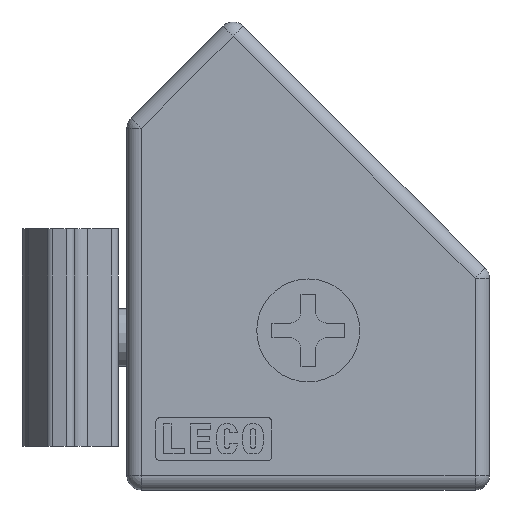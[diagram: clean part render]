
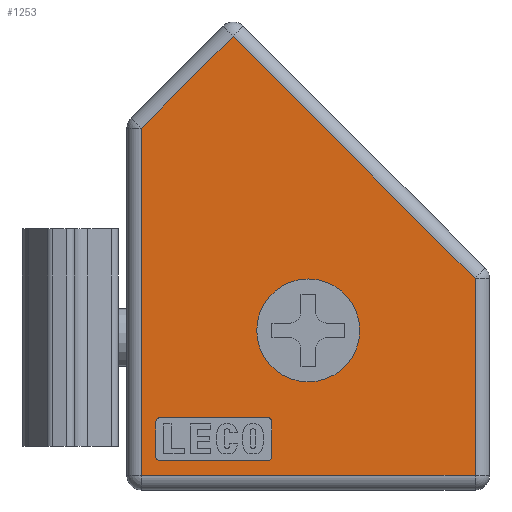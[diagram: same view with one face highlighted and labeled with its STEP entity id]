
A CAD part, left-side view. The second image highlights one B-rep face of the part: STEP entity #1253.
In plain terms, the highlighted planar face has unit normal (-1, 0, 0) as drawn and (0, 0, -1) by its records, which use the part's own axes.
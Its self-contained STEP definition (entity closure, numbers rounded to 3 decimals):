
#1253=ADVANCED_FACE('',(#2480,#2481,#2482),#2483,.F.);
#2480=FACE_BOUND('',#3687,.T.);
#2481=FACE_BOUND('',#3688,.T.);
#2482=FACE_OUTER_BOUND('',#3689,.T.);
#2483=PLANE('',#3690);
#3687=EDGE_LOOP('',(#7114,#7115,#7116,#7117,#7118,#7119,#7120,#7121));
#3688=EDGE_LOOP('',(#7122));
#3689=EDGE_LOOP('',(#7123,#7124,#7125,#7126,#7127));
#3690=AXIS2_PLACEMENT_3D('',#7128,#7129,#7130);
#7114=ORIENTED_EDGE('',*,*,#8594,.F.);
#7115=ORIENTED_EDGE('',*,*,#8531,.F.);
#7116=ORIENTED_EDGE('',*,*,#8037,.F.);
#7117=ORIENTED_EDGE('',*,*,#7455,.F.);
#7118=ORIENTED_EDGE('',*,*,#7833,.F.);
#7119=ORIENTED_EDGE('',*,*,#8033,.F.);
#7120=ORIENTED_EDGE('',*,*,#8260,.F.);
#7121=ORIENTED_EDGE('',*,*,#8268,.F.);
#7122=ORIENTED_EDGE('',*,*,#7300,.T.);
#7123=ORIENTED_EDGE('',*,*,#8572,.T.);
#7124=ORIENTED_EDGE('',*,*,#7377,.T.);
#7125=ORIENTED_EDGE('',*,*,#7775,.T.);
#7126=ORIENTED_EDGE('',*,*,#8184,.F.);
#7127=ORIENTED_EDGE('',*,*,#7837,.F.);
#7128=CARTESIAN_POINT('',(1326.119,-377.004,19.334));
#7129=DIRECTION('',(0.0,0.0,1.0));
#7130=DIRECTION('',(1.0,0.0,0.0));
#7300=EDGE_CURVE('',#8700,#8700,#8701,.T.);
#7377=EDGE_CURVE('',#8841,#8839,#8842,.F.);
#7455=EDGE_CURVE('',#8977,#8978,#8979,.T.);
#7775=EDGE_CURVE('',#8839,#9524,#9526,.F.);
#7833=EDGE_CURVE('',#9612,#8977,#9613,.T.);
#7837=EDGE_CURVE('',#9618,#9619,#9620,.T.);
#8033=EDGE_CURVE('',#9904,#9612,#9905,.T.);
#8037=EDGE_CURVE('',#8978,#9910,#9911,.T.);
#8184=EDGE_CURVE('',#9619,#9524,#10124,.T.);
#8260=EDGE_CURVE('',#10230,#9904,#10231,.T.);
#8268=EDGE_CURVE('',#10242,#10230,#10243,.T.);
#8531=EDGE_CURVE('',#9910,#10568,#10569,.T.);
#8572=EDGE_CURVE('',#9618,#8841,#10614,.T.);
#8594=EDGE_CURVE('',#10568,#10242,#10638,.T.);
#8700=VERTEX_POINT('',#10757);
#8701=CIRCLE('',#10758,3.55);
#8839=VERTEX_POINT('',#10948);
#8841=VERTEX_POINT('',#10950);
#8842=LINE('',#10951,#10952);
#8977=VERTEX_POINT('',#11139);
#8978=VERTEX_POINT('',#11140);
#8979=CIRCLE('',#11141,0.3);
#9524=VERTEX_POINT('',#11936);
#9526=LINE('',#11938,#11939);
#9612=VERTEX_POINT('',#12066);
#9613=LINE('',#12067,#12068);
#9618=VERTEX_POINT('',#12075);
#9619=VERTEX_POINT('',#12076);
#9620=LINE('',#12077,#12078);
#9904=VERTEX_POINT('',#12472);
#9905=CIRCLE('',#12473,0.3);
#9910=VERTEX_POINT('',#12479);
#9911=LINE('',#12480,#12481);
#10124=LINE('',#12785,#12786);
#10230=VERTEX_POINT('',#12934);
#10231=LINE('',#12935,#12936);
#10242=VERTEX_POINT('',#12952);
#10243=CIRCLE('',#12953,0.3);
#10568=VERTEX_POINT('',#13402);
#10569=CIRCLE('',#13403,0.3);
#10614=LINE('',#13458,#13459);
#10638=LINE('',#13486,#13487);
#10757=CARTESIAN_POINT('',(1342.169,-366.004,19.334));
#10758=AXIS2_PLACEMENT_3D('',#13590,#13591,#13592);
#10948=CARTESIAN_POINT('',(1343.796,-345.741,19.334));
#10950=CARTESIAN_POINT('',(1327.119,-362.419,19.334));
#10951=CARTESIAN_POINT('',(1319.326,-370.211,19.334));
#10952=VECTOR('',#13678,1.0);
#11139=CARTESIAN_POINT('',(1341.119,-372.304,19.334));
#11140=CARTESIAN_POINT('',(1341.419,-372.004,19.334));
#11141=AXIS2_PLACEMENT_3D('',#13780,#13781,#13782);
#11936=CARTESIAN_POINT('',(1350.119,-352.063,19.334));
#11938=CARTESIAN_POINT('',(1350.589,-352.534,19.334));
#11939=VECTOR('',#14173,1.0);
#12066=CARTESIAN_POINT('',(1341.119,-374.704,19.334));
#12067=CARTESIAN_POINT('',(1341.119,-374.704,19.334));
#12068=VECTOR('',#14243,1.0);
#12075=CARTESIAN_POINT('',(1327.119,-376.004,19.334));
#12076=CARTESIAN_POINT('',(1350.119,-376.004,19.334));
#12077=CARTESIAN_POINT('',(1326.119,-376.004,19.334));
#12078=VECTOR('',#14246,1.0);
#12472=CARTESIAN_POINT('',(1341.419,-375.004,19.334));
#12473=AXIS2_PLACEMENT_3D('',#14470,#14471,#14472);
#12479=CARTESIAN_POINT('',(1348.819,-372.004,19.334));
#12480=CARTESIAN_POINT('',(1341.419,-372.004,19.334));
#12481=VECTOR('',#14477,1.0);
#12785=CARTESIAN_POINT('',(1350.119,-377.004,19.334));
#12786=VECTOR('',#14636,1.0);
#12934=CARTESIAN_POINT('',(1348.819,-375.004,19.334));
#12935=CARTESIAN_POINT('',(1348.819,-375.004,19.334));
#12936=VECTOR('',#14721,1.0);
#12952=CARTESIAN_POINT('',(1349.119,-374.704,19.334));
#12953=AXIS2_PLACEMENT_3D('',#14727,#14728,#14729);
#13402=CARTESIAN_POINT('',(1349.119,-372.304,19.334));
#13403=AXIS2_PLACEMENT_3D('',#15035,#15036,#15037);
#13458=CARTESIAN_POINT('',(1327.119,-377.004,19.334));
#13459=VECTOR('',#15084,1.0);
#13486=CARTESIAN_POINT('',(1349.119,-372.304,19.334));
#13487=VECTOR('',#15097,1.0);
#13590=CARTESIAN_POINT('',(1338.619,-366.004,19.334));
#13591=DIRECTION('',(0.0,0.0,1.0));
#13592=DIRECTION('',(1.0,0.0,0.0));
#13678=DIRECTION('',(-0.707,-0.707,0.0));
#13780=CARTESIAN_POINT('',(1341.419,-372.304,19.334));
#13781=DIRECTION('',(0.0,0.0,-1.0));
#13782=DIRECTION('',(-1.0,0.0,0.0));
#14173=DIRECTION('',(-0.707,0.707,0.0));
#14243=DIRECTION('',(0.,1.0,0.0));
#14246=DIRECTION('',(1.0,0.0,0.0));
#14470=CARTESIAN_POINT('',(1341.419,-374.704,19.334));
#14471=DIRECTION('',(0.0,0.0,-1.0));
#14472=DIRECTION('',(-1.0,0.0,0.0));
#14477=DIRECTION('',(1.0,0.0,0.0));
#14636=DIRECTION('',(0.0,1.0,0.0));
#14721=DIRECTION('',(-1.0,0.,0.0));
#14727=CARTESIAN_POINT('',(1348.819,-374.704,19.334));
#14728=DIRECTION('',(0.0,0.0,-1.0));
#14729=DIRECTION('',(-1.0,0.0,0.0));
#15035=CARTESIAN_POINT('',(1348.819,-372.304,19.334));
#15036=DIRECTION('',(0.0,0.0,-1.0));
#15037=DIRECTION('',(-1.0,0.0,0.0));
#15084=DIRECTION('',(0.0,1.0,0.0));
#15097=DIRECTION('',(0.0,-1.0,0.0));
